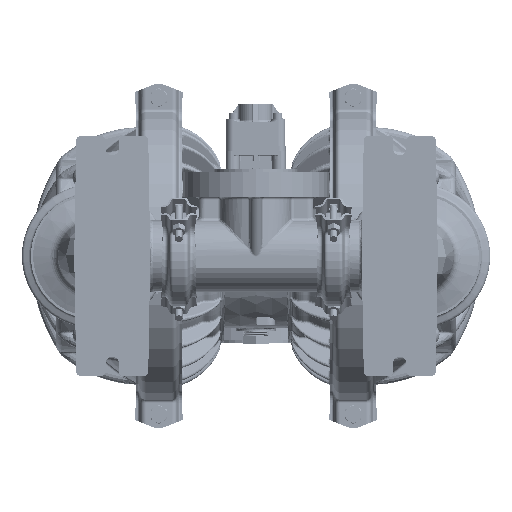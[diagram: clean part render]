
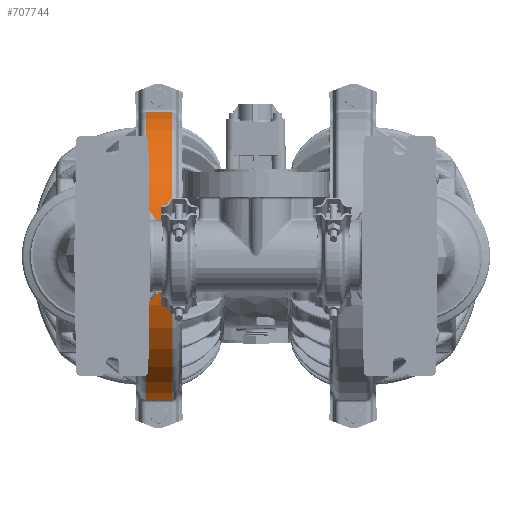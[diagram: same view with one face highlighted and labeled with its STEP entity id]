
A CAD part, front view. The second image highlights one B-rep face of the part: STEP entity #707744.
In plain terms, the highlighted cylindrical face has radius 154.788 mm (diameter 309.575 mm), a partial arc.
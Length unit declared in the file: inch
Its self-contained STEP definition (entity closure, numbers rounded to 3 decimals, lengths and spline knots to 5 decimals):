
#22547 = ORIENTED_EDGE ( 'NONE', *, *, #229674, .T. ) ;
#24463 = DIRECTION ( 'NONE',  ( 1., 0., 0. ) ) ;
#27986 = FACE_OUTER_BOUND ( 'NONE', #620735, .T. ) ;
#50077 = DIRECTION ( 'NONE',  ( 1., 0., 0. ) ) ;
#69780 = AXIS2_PLACEMENT_3D ( 'NONE', #349893, #24463, #679091 ) ;
#70745 = VERTEX_POINT ( 'NONE', #315082 ) ;
#75472 = CARTESIAN_POINT ( 'NONE',  ( -4.596, -1.03254, -5.98062 ) ) ;
#126629 = DIRECTION ( 'NONE',  ( -1., 0., 0. ) ) ;
#128814 = AXIS2_PLACEMENT_3D ( 'NONE', #556661, #277474, #163162 ) ;
#163162 = DIRECTION ( 'NONE',  ( 0., -0.192, 0.981 ) ) ;
#173188 = LINE ( 'NONE', #291049, #688092 ) ;
#175210 = CARTESIAN_POINT ( 'NONE',  ( -3.504, -1.03254, 5.98062 ) ) ;
#201294 = AXIS2_PLACEMENT_3D ( 'NONE', #540266, #50077, #644019 ) ;
#229674 = EDGE_CURVE ( 'NONE', #70745, #622022, #509859, .T. ) ;
#277474 = DIRECTION ( 'NONE',  ( 1., 0., 0. ) ) ;
#291049 = CARTESIAN_POINT ( 'NONE',  ( -3.504, -1.03254, -5.98062 ) ) ;
#315082 = CARTESIAN_POINT ( 'NONE',  ( -4.596, -1.03254, 5.98062 ) ) ;
#317456 = VERTEX_POINT ( 'NONE', #444402 ) ;
#349893 = CARTESIAN_POINT ( 'NONE',  ( -5.05, 0.1375, 0. ) ) ;
#393466 = DIRECTION ( 'NONE',  ( -1., 0., 0. ) ) ;
#440632 = CYLINDRICAL_SURFACE ( 'NONE', #69780, 6.094 ) ;
#441632 = ORIENTED_EDGE ( 'NONE', *, *, #664086, .T. ) ;
#444402 = CARTESIAN_POINT ( 'NONE',  ( -3.504, -1.03254, -5.98062 ) ) ;
#454416 = VECTOR ( 'NONE', #393466, 39.37008 ) ;
#473284 = EDGE_CURVE ( 'NONE', #508391, #317456, #551808, .T. ) ;
#487641 = ORIENTED_EDGE ( 'NONE', *, *, #473284, .F. ) ;
#500949 = LINE ( 'NONE', #175210, #454416 ) ;
#508391 = VERTEX_POINT ( 'NONE', #631440 ) ;
#509859 = CIRCLE ( 'NONE', #201294, 6.094 ) ;
#540266 = CARTESIAN_POINT ( 'NONE',  ( -4.596, 0.1375, 0. ) ) ;
#550341 = EDGE_CURVE ( 'NONE', #317456, #622022, #173188, .T. ) ;
#551808 = CIRCLE ( 'NONE', #128814, 6.094 ) ;
#556661 = CARTESIAN_POINT ( 'NONE',  ( -3.504, 0.1375, 0. ) ) ;
#620735 = EDGE_LOOP ( 'NONE', ( #22547, #701132, #487641, #441632 ) ) ;
#622022 = VERTEX_POINT ( 'NONE', #75472 ) ;
#631440 = CARTESIAN_POINT ( 'NONE',  ( -3.504, -1.03254, 5.98062 ) ) ;
#644019 = DIRECTION ( 'NONE',  ( 0., -0.192, 0.981 ) ) ;
#664086 = EDGE_CURVE ( 'NONE', #508391, #70745, #500949, .T. ) ;
#679091 = DIRECTION ( 'NONE',  ( 0., 0.192, -0.981 ) ) ;
#688092 = VECTOR ( 'NONE', #126629, 39.37008 ) ;
#701132 = ORIENTED_EDGE ( 'NONE', *, *, #550341, .F. ) ;
#707744 = ADVANCED_FACE ( 'NONE', ( #27986 ), #440632, .T. ) ;
